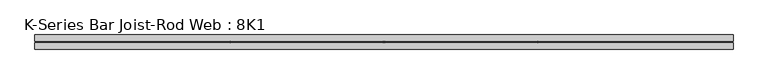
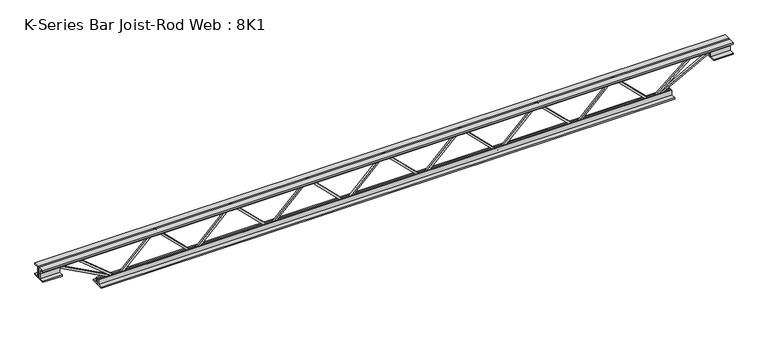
"""IFC4 building model written with IfcOpenShell, lengths in millimetres: beam geometry, K-Series Bar Joist-Rod Web : 8K1."""

from ifc_helpers import new_model, si_unit, frame, origin, place, context, project, spatial, polyline, outline, extrude, source, transform, mapped, element, save


def k_series_bar_joist_rod_web_8k1_41fa30a3(model_context):
    return source(origin(), model_context, "Body", "SweptSolid", [
        extrude(outline(polyline([(-90.4875, 598.572914), (-100.0125, 598.572914), (-100.0125, 603.7011887), (90.4875, 796.8754933), (90.4875, 799.3189439), (-100.0125, 992.4932486), (-100.0125, 997.6215233), (-90.4875, 997.6215233), (-90.4875, 996.399798), (100.0125, 803.2254933), (100.0125, 792.9689439), (-90.4875, 599.7946393), (-90.4875, 598.572914)])), frame((0.0, -4.7625, 0.0), z_axis=(0.0, 1.0, 0.0), x_axis=(0.0, 0.0, 1.0)), (0.0, 0.0, 1.0), 9.525),
        extrude(outline(polyline([(-90.4875, 199.5243047), (-100.0125, 199.5243047), (-100.0125, 204.6525794), (90.4875, 397.826884), (90.4875, 400.2703346), (-100.0125, 593.4446393), (-100.0125, 598.572914), (-90.4875, 598.572914), (-90.4875, 597.3511887), (100.0125, 404.176884), (100.0125, 393.9203346), (-90.4875, 200.74603), (-90.4875, 199.5243047)])), frame((0.0, -4.7625, 0.0), z_axis=(0.0, 1.0, 0.0), x_axis=(0.0, 0.0, 1.0)), (0.0, 0.0, 1.0), 9.525),
        extrude(outline(polyline([(-90.4875, -199.5243047), (-100.0125, -199.5243047), (-100.0125, -194.39603), (90.4875, -1.2217253), (90.4875, 1.2217253), (-100.0125, 194.39603), (-100.0125, 199.5243047), (-90.4875, 199.5243047), (-90.4875, 198.3025794), (100.0125, 5.1282747), (100.0125, -5.1282747), (-90.4875, -198.3025794), (-90.4875, -199.5243047)])), frame((0.0, -4.7625, 0.0), z_axis=(0.0, 1.0, 0.0), x_axis=(0.0, 0.0, 1.0)), (0.0, 0.0, 1.0), 9.525),
        extrude(outline(polyline([(-90.4875, -598.572914), (-100.0125, -598.572914), (-100.0125, -593.4446393), (90.4875, -400.2703346), (90.4875, -397.826884), (-100.0125, -204.6525794), (-100.0125, -199.5243047), (-90.4875, -199.5243047), (-90.4875, -200.74603), (100.0125, -393.9203346), (100.0125, -404.176884), (-90.4875, -597.3511887), (-90.4875, -598.572914)])), frame((0.0, -4.7625, 0.0), z_axis=(0.0, 1.0, 0.0), x_axis=(0.0, 0.0, 1.0)), (0.0, 0.0, 1.0), 9.525),
        extrude(outline(polyline([(-90.4875, -997.6215233), (-100.0125, -997.6215233), (-100.0125, -992.4932486), (90.4875, -799.3189439), (90.4875, -796.8754933), (-100.0125, -603.7011887), (-100.0125, -598.572914), (-90.4875, -598.572914), (-90.4875, -599.7946393), (100.0125, -792.9689439), (100.0125, -803.2254933), (-90.4875, -996.399798), (-90.4875, -997.6215233)])), frame((0.0, -4.7625, 0.0), z_axis=(0.0, 1.0, 0.0), x_axis=(0.0, 0.0, 1.0)), (0.0, 0.0, 1.0), 9.525),
        extrude(outline(polyline([(-90.4875, 997.6215233), (-100.0125, 997.6215233), (-100.0125, 1002.749798), (90.4875, 1195.9241027), (90.4875, 1198.3675532), (-100.0125, 1391.5418579), (-100.0125, 1396.6701326), (-90.4875, 1396.6701326), (-90.4875, 1395.4484073), (100.0125, 1202.2741027), (100.0125, 1192.0175532), (-90.4875, 998.8432486), (-90.4875, 997.6215233)])), frame((0.0, -4.7625, 0.0), z_axis=(0.0, 1.0, 0.0), x_axis=(0.0, 0.0, 1.0)), (0.0, 0.0, 1.0), 9.525),
        extrude(outline(polyline([(-90.4875, -1396.6701326), (-100.0125, -1396.6701326), (-100.0125, -1391.5418579), (90.4875, -1198.3675532), (90.4875, -1195.9241027), (-100.0125, -1002.749798), (-100.0125, -997.6215233), (-90.4875, -997.6215233), (-90.4875, -998.8432486), (100.0125, -1192.0175532), (100.0125, -1202.2741027), (-90.4875, -1395.4484073), (-90.4875, -1396.6701326)])), frame((0.0, -4.7625, 0.0), z_axis=(0.0, 1.0, 0.0), x_axis=(0.0, 0.0, 1.0)), (0.0, 0.0, 1.0), 9.525),
        extrude(outline(polyline([(4.7625, 101.6), (36.5125, 101.6), (36.5125, 95.25), (11.1125, 95.25), (11.1125, 69.85), (4.7625, 69.85), (4.7625, 101.6)])), frame((-1803.0701326, 0.0, 0.0), z_axis=(1.0, 0.0, 0.0), x_axis=(0.0, 1.0, 0.0)), (0.0, 0.0, 1.0), 3606.1402652),
        extrude(outline(polyline([(-4.7625, 101.6), (-4.7625, 69.85), (-11.1125, 69.85), (-11.1125, 95.25), (-36.5125, 95.25), (-36.5125, 101.6), (-4.7625, 101.6)])), frame((-1803.0701326, 0.0, 0.0), z_axis=(1.0, 0.0, 0.0), x_axis=(0.0, 1.0, 0.0)), (0.0, 0.0, 1.0), 3606.1402652),
        extrude(outline(polyline([(-4.7625, 38.1), (-36.5125, 38.1), (-36.5125, 44.45), (-11.1125, 44.45), (-11.1125, 69.85), (-4.7625, 69.85), (-4.7625, 38.1)])), frame((-1803.0701326, 0.0, 0.0), z_axis=(1.0, 0.0, 0.0), x_axis=(0.0, 1.0, 0.0)), (0.0, 0.0, 1.0), 101.6),
        extrude(outline(polyline([(36.5125, 38.1), (4.7625, 38.1), (4.7625, 69.85), (11.1125, 69.85), (11.1125, 44.45), (36.5125, 44.45), (36.5125, 38.1)])), frame((-1803.0701326, 0.0, 0.0), z_axis=(1.0, 0.0, 0.0), x_axis=(0.0, 1.0, 0.0)), (0.0, 0.0, 1.0), 101.6),
        extrude(outline(polyline([(4.7625, 38.1), (4.7625, 69.85), (11.1125, 69.85), (11.1125, 44.45), (36.5125, 44.45), (36.5125, 38.1), (4.7625, 38.1)])), frame((1701.4701326, 0.0, 0.0), z_axis=(1.0, 0.0, 0.0), x_axis=(0.0, 1.0, 0.0)), (0.0, 0.0, 1.0), 101.6),
        extrude(outline(polyline([(-4.7625, 38.1), (-36.5125, 38.1), (-36.5125, 44.45), (-11.1125, 44.45), (-11.1125, 69.85), (-4.7625, 69.85), (-4.7625, 38.1)])), frame((1701.4701326, 0.0, 0.0), z_axis=(1.0, 0.0, 0.0), x_axis=(0.0, 1.0, 0.0)), (0.0, 0.0, 1.0), 101.6),
        extrude(outline(polyline([(4.7625, -101.6), (4.7625, -69.85), (11.1125, -69.85), (11.1125, -95.25), (36.5125, -95.25), (36.5125, -101.6), (4.7625, -101.6)])), frame((-1498.2701326, 0.0, 0.0), z_axis=(1.0, 0.0, 0.0), x_axis=(0.0, 1.0, 0.0)), (0.0, 0.0, 1.0), 2996.5402652),
        extrude(outline(polyline([(-4.7625, -101.6), (-36.5125, -101.6), (-36.5125, -95.25), (-11.1125, -95.25), (-11.1125, -69.85), (-4.7625, -69.85), (-4.7625, -101.6)])), frame((-1498.2701326, 0.0, 0.0), z_axis=(1.0, 0.0, 0.0), x_axis=(0.0, 1.0, 0.0)), (0.0, 0.0, 1.0), 2996.5402652),
        extrude(outline(polyline([(0.0, -9.525), (0.0, 0.0), (346.6425392, 0.0), (346.6425392, -9.525), (0.0, -9.525)])), frame((-1703.7384311, 4.7625, 65.662372), z_axis=(0.4762831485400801, 0.0, 0.8792919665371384), x_axis=(0.8792919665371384, 0.0, -0.4762831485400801)), (0.0, 0.0, 1.0), 9.525),
        extrude(outline(polyline([(0.0, -9.525), (0.0, 0.0), (258.9748214, 0.0), (258.9748214, -9.525), (0.0, -9.525)])), frame((-1599.2305963, 4.7625, 66.1807842), z_axis=(0.6375137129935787, 0.0, 0.7704390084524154), x_axis=(0.7704390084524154, 0.0, -0.6375137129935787)), (0.0, 0.0, 1.0), 9.525),
        extrude(outline(polyline([(0.0, -9.525), (0.0, 0.0), (346.6425392, 0.0), (346.6425392, -9.525), (0.0, -9.525)])), frame((1703.7384311, -4.7625, 65.662372), z_axis=(-0.4762831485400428, 0.0, 0.8792919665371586), x_axis=(-0.8792919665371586, 0.0, -0.4762831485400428)), (0.0, 0.0, 1.0), 9.525),
        extrude(outline(polyline([(0.0, -9.525), (0.0, 0.0), (258.9748214, 0.0), (258.9748214, -9.525), (0.0, -9.525)])), frame((1599.2305963, -4.7625, 66.1807842), z_axis=(-0.6375137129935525, 0.0, 0.7704390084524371), x_axis=(-0.7704390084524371, 0.0, -0.6375137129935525)), (0.0, 0.0, 1.0), 9.525),
    ])


if __name__ == "__main__":
    model = new_model("IFC4")
    model_context = context("Model", 3, world=origin())
    ifc_project = project(units=[si_unit("LENGTHUNIT", "METRE", prefix="MILLI")], contexts=[model_context])
    site = spatial("IfcSite", under=ifc_project)
    building = spatial("IfcBuilding", under=site)
    placement = place(None, origin())
    k_series_bar_joist_rod_web_8k1_shape = k_series_bar_joist_rod_web_8k1_41fa30a3(model_context)
    element("IfcBeam", 1, ObjectType="K-Series Bar Joist-Rod Web : 8K1", at=placement, inside=building, context=model_context, shape_type="MappedRepresentation", body=[
        mapped(k_series_bar_joist_rod_web_8k1_shape, transform((0.0, 0.0, 0.0), x_axis=(1.0, 0.0, 0.0), y_axis=(0.0, 1.0, 0.0), z_axis=(0.0, 0.0, 1.0))),
    ])
    save(model, "model.ifc")
